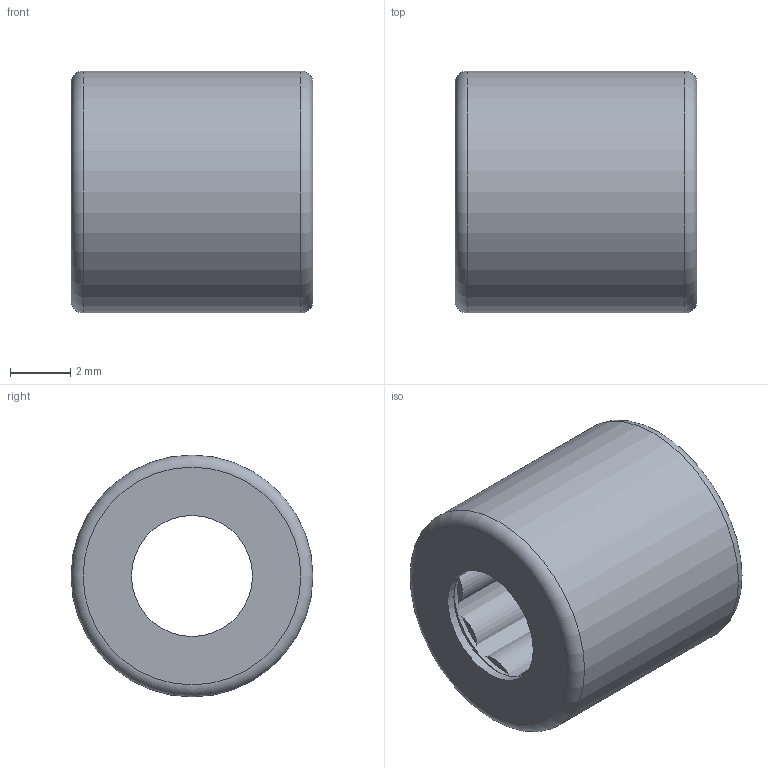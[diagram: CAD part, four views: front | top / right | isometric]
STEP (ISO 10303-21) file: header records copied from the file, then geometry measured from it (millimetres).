
FILE_DESCRIPTION(/* description */ (''),/* implementation_level */ '2;1');
FILE_NAME(/* name */ 'C:\Users\OUREHANEKD\Desktop\Ihlove loziska\HK\HK--\HK0408TN.stp',/* time_stamp */ '2016-10-07T08:40:23+02:00',/* author */ ('OUREHANEKD'),/* organization */ (''),/* preprocessor_version */ 'ST-DEVELOPER v15.6',/* originating_system */ 'Autodesk Inventor 2015',/* authorisation */ '');
FILE_SCHEMA (('AUTOMOTIVE_DESIGN { 1 0 10303 214 3 1 1 }'));
Length unit declared in the file: millimetre
Products named in the file (4): HK0408TN-01; HK0408TN-kl; HK0408TN-ihla; HK0408TN
Assembly tree (11 placements, depth 2):
  HK0408TN
    HK0408TN-01
    HK0408TN-kl
    HK0408TN-ihla  x9
Bounding box: 8 x 8 x 8 mm (x, y, z)
Volume: 359.7 mm3; surface area: 1163.6 mm2
Topology: 11 solids, 11 shells, 41 faces, 49 edges, 32 vertices
Faces by surface type: plane 24, cylinder 15, torus 2
Full cylindrical faces by diameter (mm): 1.712 x9, 4 x2, 4.5 x1, 6.924 x1, 7.424 x1, 8 x1
Entity records: 492 total; most frequent: DIRECTION 96, CARTESIAN_POINT 64, AXIS2_PLACEMENT_3D 48, EDGE_LOOP 32, ORIENTED_EDGE 32, FACE_OUTER_BOUND 17, ADVANCED_FACE 17, CIRCLE 16
